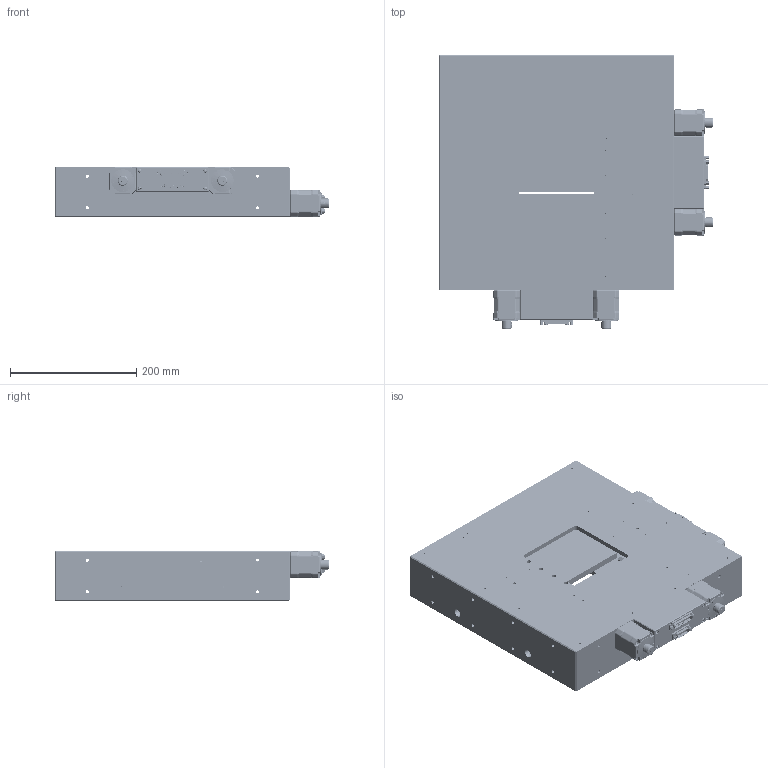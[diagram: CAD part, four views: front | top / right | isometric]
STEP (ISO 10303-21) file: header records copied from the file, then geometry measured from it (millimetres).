
FILE_DESCRIPTION((''),'2;1');
FILE_NAME('C:\WF\Designs\Slitter\IB C120 Air\Stp\13015002 for step.stp','2013-08-28T09:51:01',('Henning'),(''),'Autodesk Inventor 2013','Autodesk Inventor 2013','');
FILE_SCHEMA(('AUTOMOTIVE_DESIGN { 1 0 10303 214 1 1 1 1 }'));
Length unit declared in the file: millimetre
Products named in the file (25): 13015002 for step; 13015001 for step; 13015101; 13015109; Nema 17 motor (42x42) [Part Number [Project]=FL42STH47-1206MB][Description [Project]=Elmeq]; Scale_button_A; Dsub 25 Pin, 2 Row, Male; Dsub 15 Pin, 2 Row, Male; D-Connector screw; DIN EN ISO 7045 Z M3 x 30 - 4.8 - Z; 13015001B; 13015101B; DIN 625 SKF 624; STAR rail no; Schnee_Wagon MN 9; 13015107b; 13015107a; 13015103; DIN EN ISO 7045 Z M3 x 8 - 4.8 - Z; DIN EN ISO 7045 Z M3 x 5 - 4.8 - Z; 061012a4; 061020a4; DIN EN ISO 7045 Z M3 x 6 - 4.8 - Z; blade; DIN EN ISO 4762 M6 x 40
Assembly tree (98 placements, depth 3):
  13015002 for step
    13015001 for step
      13015101
      13015109
      Nema 17 motor (42x42) [Part Number [Project]=FL42STH47-1206MB][Description [Project]=Elmeq]  x2
      Scale_button_A  x2
      Dsub 25 Pin, 2 Row, Male
      Dsub 15 Pin, 2 Row, Male
      D-Connector screw  x4
      DIN EN ISO 7045 Z M3 x 30 - 4.8 - Z  x4
    13015001B
      13015101B
      13015109
      Nema 17 motor (42x42) [Part Number [Project]=FL42STH47-1206MB][Description [Project]=Elmeq]  x2
      DIN 625 SKF 624  x2
      Scale_button_A  x2
      Dsub 25 Pin, 2 Row, Male
      Dsub 15 Pin, 2 Row, Male
      D-Connector screw  x4
      DIN EN ISO 7045 Z M3 x 30 - 4.8 - Z  x4
      STAR rail no  x2
      Schnee_Wagon MN 9  x4
      13015107b
      13015107a
      13015103  x2
      DIN EN ISO 7045 Z M3 x 8 - 4.8 - Z  x24
      DIN EN ISO 7045 Z M3 x 5 - 4.8 - Z  x16
      061012a4  x2
      061020a4  x2
      DIN EN ISO 7045 Z M3 x 6 - 4.8 - Z  x2
      blade  x2
    DIN EN ISO 4762 M6 x 40  x4
Bounding box: 436 x 436 x 78 mm (x, y, z)
Volume: 3548826.7 mm3; surface area: 1023170.5 mm2
Topology: 96 solids, 96 shells, 10043 faces, 26621 edges, 17403 vertices
Faces by surface type: plane 5268, bspline 1702, cylinder 1403, cone 1094, torus 436, sphere 140
Full cylindrical faces by diameter (mm): 0.991 x80, 1.567 x16, 2 x4, 2.156 x8, 2.459 x119, 2.487 x8, 2.729 x50, 2.82 x8, 3 x58, 3.048 x8, 3.242 x20, 3.5 x48, 4 x8, 4.5 x16, 4.595 x4, 4.917 x28, 5 x22, 6 x28, 6.5 x38, 6.88 x4, 6.9 x2, 7 x10, 10 x4, 10.12 x4, 10.5 x4, 13 x6, 15 x4, 16 x4, 20 x4, 22 x4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
Entity records: 115122 total; most frequent: CARTESIAN_POINT 33750, ORIENTED_EDGE 17068, DIRECTION 13732, EDGE_CURVE 8534, VERTEX_POINT 5835, VECTOR 4726, LINE 4726, EDGE_LOOP 4581
